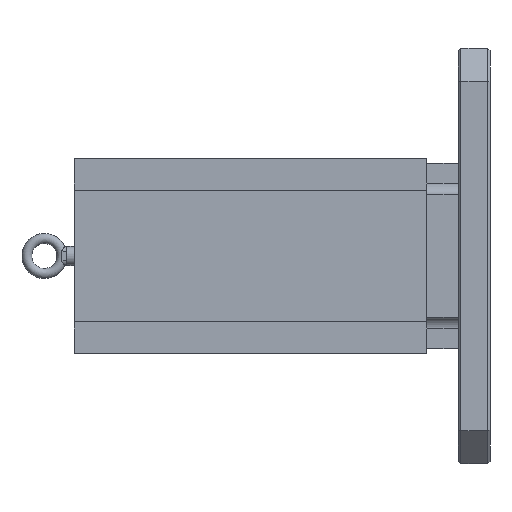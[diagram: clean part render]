
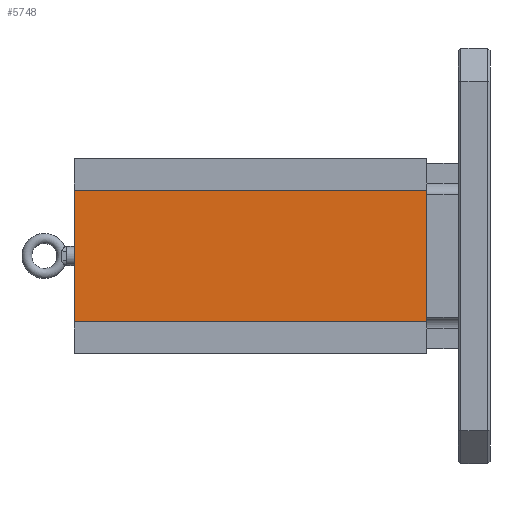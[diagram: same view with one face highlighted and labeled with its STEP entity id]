
A CAD part, left-side view. The second image highlights one B-rep face of the part: STEP entity #5748.
In plain terms, the highlighted planar face has unit normal (-1, 0, 0).
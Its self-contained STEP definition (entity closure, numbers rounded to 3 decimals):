
#97 = PLANE ( 'NONE',  #1309 ) ;
#548 = CARTESIAN_POINT ( 'NONE',  ( -116.992, 462., -79.273 ) ) ;
#658 = LINE ( 'NONE', #2625, #9680 ) ;
#1177 = EDGE_LOOP ( 'NONE', ( #8444, #9048, #11006, #11989 ) ) ;
#1309 = AXIS2_PLACEMENT_3D ( 'NONE', #7513, #6547, #1951 ) ;
#1601 = LINE ( 'NONE', #548, #3701 ) ;
#1951 = DIRECTION ( 'NONE',  ( 0., 0., -1. ) ) ;
#2012 = VERTEX_POINT ( 'NONE', #6358 ) ;
#2377 = VERTEX_POINT ( 'NONE', #10641 ) ;
#2530 = VECTOR ( 'NONE', #2836, 1000. ) ;
#2600 = LINE ( 'NONE', #9092, #2530 ) ;
#2625 = CARTESIAN_POINT ( 'NONE',  ( -116.992, 462., 79.273 ) ) ;
#2836 = DIRECTION ( 'NONE',  ( 0., 0., 1. ) ) ;
#3534 = DIRECTION ( 'NONE',  ( 0., -1., 0. ) ) ;
#3701 = VECTOR ( 'NONE', #3534, 1000. ) ;
#5201 = VECTOR ( 'NONE', #8939, 1000. ) ;
#5421 = LINE ( 'NONE', #9127, #5201 ) ;
#5748 = ADVANCED_FACE ( 'NONE', ( #10339 ), #97, .F. ) ;
#6358 = CARTESIAN_POINT ( 'NONE',  ( -116.992, 38.1, -79.273 ) ) ;
#6547 = DIRECTION ( 'NONE',  ( 1., 0., 0. ) ) ;
#6570 = CARTESIAN_POINT ( 'NONE',  ( -116.992, 462., 79.273 ) ) ;
#7513 = CARTESIAN_POINT ( 'NONE',  ( -116.992, 462., -79.273 ) ) ;
#7743 = EDGE_CURVE ( 'NONE', #2377, #2012, #5421, .T. ) ;
#7947 = CARTESIAN_POINT ( 'NONE',  ( -116.992, 462., -79.273 ) ) ;
#8390 = EDGE_CURVE ( 'NONE', #11956, #2377, #658, .T. ) ;
#8444 = ORIENTED_EDGE ( 'NONE', *, *, #7743, .F. ) ;
#8794 = EDGE_CURVE ( 'NONE', #10247, #11956, #2600, .T. ) ;
#8939 = DIRECTION ( 'NONE',  ( 0., 0., -1. ) ) ;
#9048 = ORIENTED_EDGE ( 'NONE', *, *, #8390, .F. ) ;
#9092 = CARTESIAN_POINT ( 'NONE',  ( -116.992, 462., -79.273 ) ) ;
#9127 = CARTESIAN_POINT ( 'NONE',  ( -116.992, 38.1, -79.273 ) ) ;
#9680 = VECTOR ( 'NONE', #10109, 1000. ) ;
#10109 = DIRECTION ( 'NONE',  ( 0., -1., 0. ) ) ;
#10247 = VERTEX_POINT ( 'NONE', #7947 ) ;
#10339 = FACE_OUTER_BOUND ( 'NONE', #1177, .T. ) ;
#10641 = CARTESIAN_POINT ( 'NONE',  ( -116.992, 38.1, 79.273 ) ) ;
#11006 = ORIENTED_EDGE ( 'NONE', *, *, #8794, .F. ) ;
#11817 = EDGE_CURVE ( 'NONE', #10247, #2012, #1601, .T. ) ;
#11956 = VERTEX_POINT ( 'NONE', #6570 ) ;
#11989 = ORIENTED_EDGE ( 'NONE', *, *, #11817, .T. ) ;
